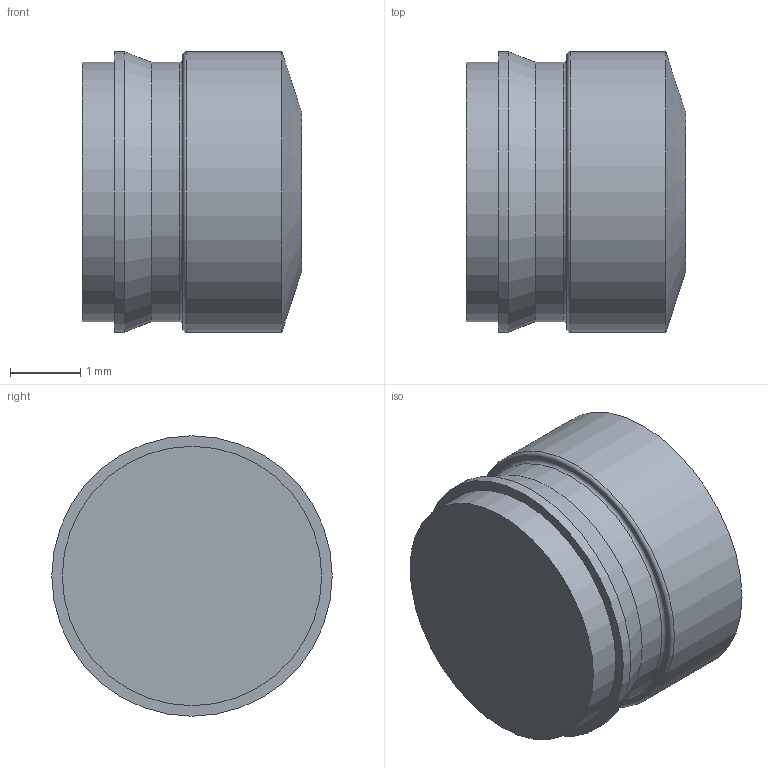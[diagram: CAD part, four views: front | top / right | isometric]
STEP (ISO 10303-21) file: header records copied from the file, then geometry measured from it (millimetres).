
FILE_DESCRIPTION(/* description */ ('LEE DL SERIES PLUG, 4 mm'),/* implementation_level */ '2;1');
FILE_NAME(/* name */ '\\absolute\SmWork\Vernon\DLPM0410100S.stp',/* time_stamp */ '2023-01-11T14:51:03-05:00',/* author */ ('VernonJ'),/* organization */ (''),/* preprocessor_version */ 'ST-DEVELOPER v18.1',/* originating_system */ 'Autodesk Inventor 2020',/* authorisation */ '');
FILE_SCHEMA (('AUTOMOTIVE_DESIGN { 1 0 10303 214 3 1 1 }'));
Length unit declared in the file: millimetre
Products named in the file (1): DLPM0410100S
Bounding box: 3.12 x 3.99 x 3.99 mm (x, y, z)
Volume: 35.7 mm3; surface area: 61.7 mm2
Topology: 1 solids, 1 shells, 12 faces, 32 edges, 24 vertices
Faces by surface type: cylinder 4, plane 4, cone 2, torus 2
Full cylindrical faces by diameter (mm): 3.69 x2, 3.99 x2
Entity records: 447 total; most frequent: DIRECTION 84, CARTESIAN_POINT 69, ORIENTED_EDGE 64, AXIS2_PLACEMENT_3D 39, EDGE_CURVE 32, CIRCLE 26, VERTEX_POINT 24, EDGE_LOOP 14
